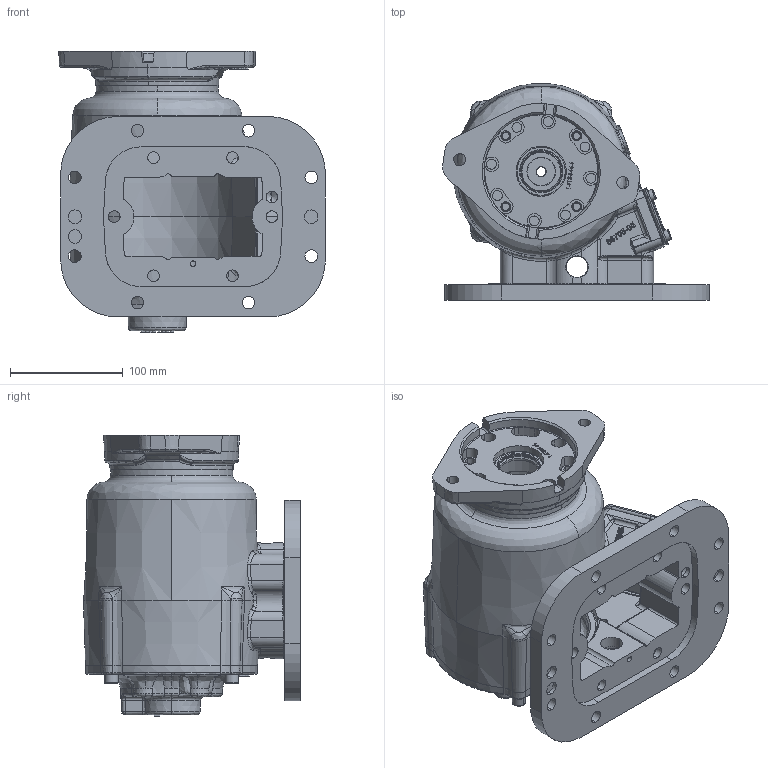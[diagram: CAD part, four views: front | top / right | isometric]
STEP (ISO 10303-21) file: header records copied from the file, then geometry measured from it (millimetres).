
FILE_DESCRIPTION (( 'STEP AP203' ), '1' );
FILE_NAME ('CS8S-XXXXX-E3SX.STEP', '2023-05-03T18:07:03', ( '' ), ( '' ), 'SwSTEP 2.0', 'SolidWorks 2021', '' );
FILE_SCHEMA (( 'CONFIG_CONTROL_DESIGN' ));
Length unit declared in the file: inch
Products named in the file (9): CS8S-XXXXX-E3SX; 16T41119; 11T37790; 15T36717; 19T41118; 14TA3999; 14T35464; 01t37075a; 19T35237
Assembly tree (14 placements, depth 3):
  CS8S-XXXXX-E3SX
    01t37075a
    15T36717
    16T41119
    19T41118  x4
    19T35237  x4
    14TA3999
      14T35464
      11T37790
Bounding box: 236.52 x 192.11 x 249.19 mm (x, y, z)
Volume: 1557639.2 mm3; surface area: 431995.4 mm2
Topology: 13 solids, 13 shells, 2325 faces, 6091 edges, 3859 vertices
Faces by surface type: bspline 998, plane 545, cylinder 473, cone 238, torus 71
Entity records: 161750 total; most frequent: CARTESIAN_POINT 114051, ORIENTED_EDGE 11466, DIRECTION 6647, EDGE_CURVE 5733, VERTEX_POINT 3673, B_SPLINE_CURVE_WITH_KNOTS 2504, EDGE_LOOP 2430, AXIS2_PLACEMENT_3D 2287
